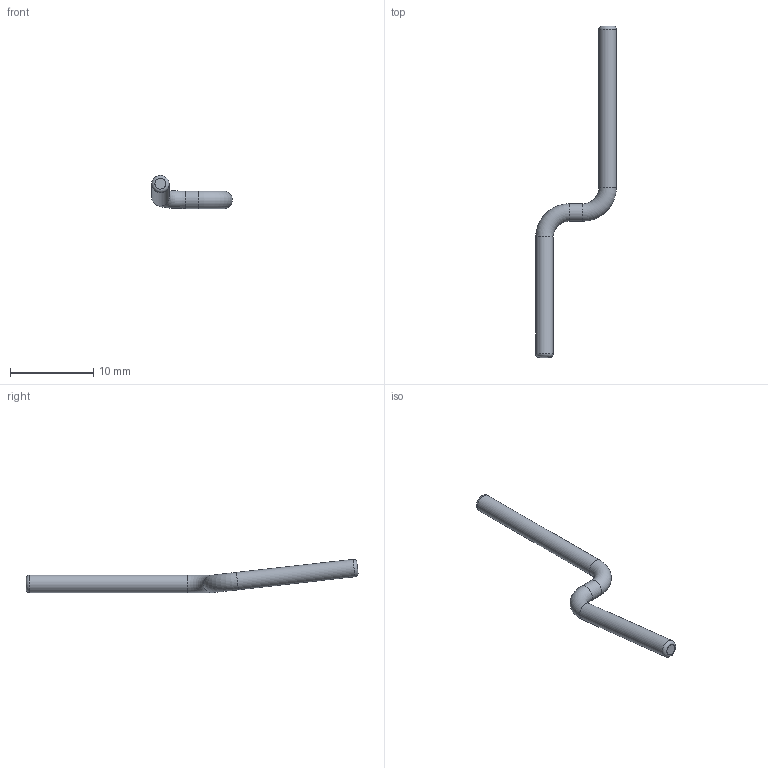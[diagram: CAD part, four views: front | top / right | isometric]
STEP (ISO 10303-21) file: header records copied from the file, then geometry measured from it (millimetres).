
FILE_DESCRIPTION(('Open CASCADE Model'),'2;1');
FILE_NAME('CUT_ROUTE_17_RADIAL_CLEARANCE_0p4','2026-09-15T14:21:59',( 'Author'),('Open CASCADE'),'Open CASCADE STEP processor 7.9', 'build123d','Unknown');
FILE_SCHEMA(('AUTOMOTIVE_DESIGN { 1 0 10303 214 1 1 1 1 }'));
Length unit declared in the file: millimetre
Products named in the file (1): CUT_ROUTE_17_RADIAL_CLEARANCE_0p4
Bounding box: 9.7 x 39.87 x 3.99 mm (x, y, z)
Volume: 155.2 mm3; surface area: 300.9 mm2
Topology: 1 solids, 1 shells, 9 faces, 15 edges, 8 vertices
Faces by surface type: torus 4, cylinder 3, plane 2
Full cylindrical faces by diameter (mm): 2.1 x3
Entity records: 409 total; most frequent: CARTESIAN_POINT 72, DIRECTION 68, ORIENTED_EDGE 30, PCURVE 30, DEFINITIONAL_REPRESENTATION 30, AXIS2_PLACEMENT_3D 22, LINE 22, VECTOR 22
